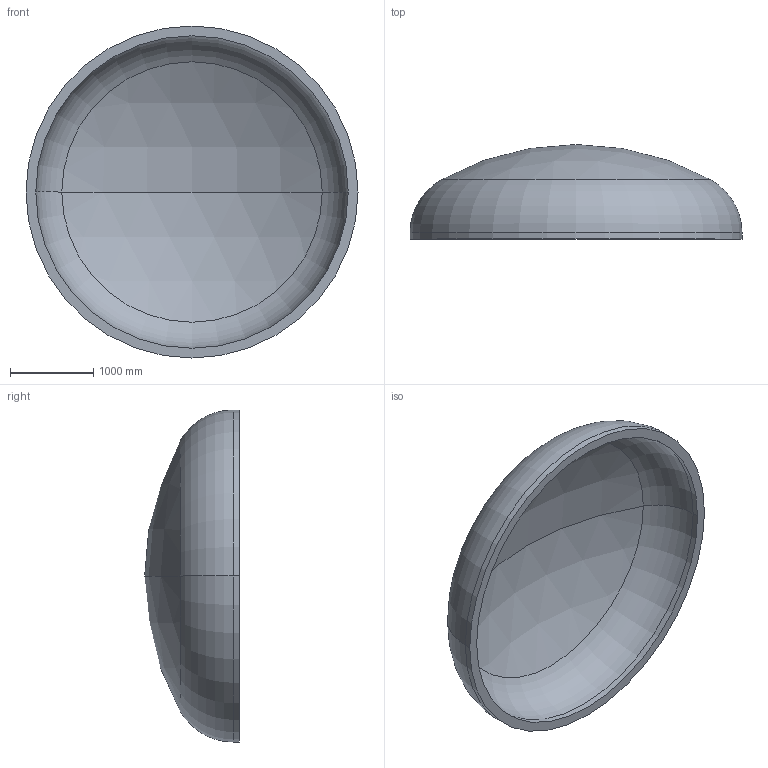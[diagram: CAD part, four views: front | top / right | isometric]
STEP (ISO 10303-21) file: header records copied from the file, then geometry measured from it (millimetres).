
FILE_DESCRIPTION (( 'STEP AP203' ), '1' );
FILE_NAME ('DIN 28013 Korbbogenform_-_Boden DIN 28013 - 4000 x 75 - I - s=118.step', '2016-07-01T22:55:19', ( '' ), ( '' ), 'SwSTEP 2.0', 'SolidWorks 2013', '' );
FILE_SCHEMA (( 'CONFIG_CONTROL_DESIGN' ));
Length unit declared in the file: millimetre
Products named in the file (1): DIN 28013 Korbbogenform_-_Boden DIN 28013 - 4000 x 75 - I - s=118
Bounding box: 4000 x 1139.79 x 4000 mm (x, y, z)
Volume: 2083315845.7 mm3; surface area: 36778676.5 mm2
Topology: 1 solids, 1 shells, 13 faces, 24 edges, 14 vertices
Faces by surface type: torus 4, cylinder 4, sphere 4, plane 1
Entity records: 407 total; most frequent: DIRECTION 72, CARTESIAN_POINT 52, ORIENTED_EDGE 48, AXIS2_PLACEMENT_3D 34, EDGE_CURVE 24, CIRCLE 20, VERTEX_POINT 14, EDGE_LOOP 14
